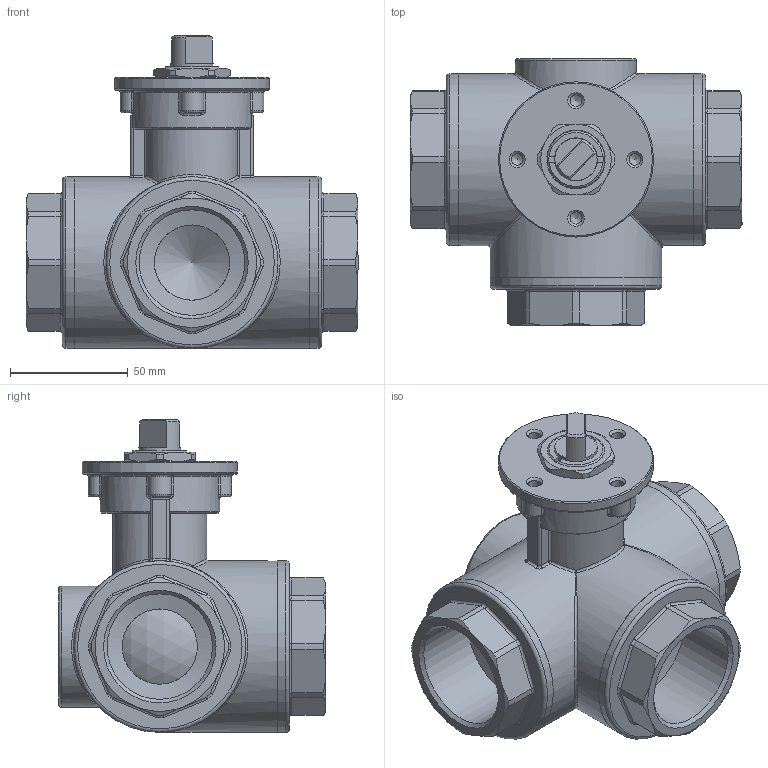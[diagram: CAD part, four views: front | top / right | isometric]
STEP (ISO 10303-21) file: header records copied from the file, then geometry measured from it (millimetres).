
FILE_DESCRIPTION((''),'2;1');
FILE_NAME('C:\Documents and Settings\ut4\Desktop\TICOM 16-07-2012\Art.92 PM SM 112.stp','2012-07-16T14:00:13',('ut4'),(''),'Autodesk Inventor 2013','Autodesk Inventor 2013','');
FILE_SCHEMA(('AUTOMOTIVE_DESIGN { 1 0 10303 214 1 1 1 1 }'));
Length unit declared in the file: millimetre
Products named in the file (13): Art.92 PM SM 112 disc. speciale; Corpo 3vie mot. 112; Manic. 3vie 112; Sfera 3vie for. L 112; Sede 3vie 112 mot; O-ring 37.70 x 3; Perno 3 vie mot. 23 q8; Anello antigrip. perno mot. Ø23; Boccola antigrip. perno mot. Ø23; O-ring 17.86 x 2; Ghiera ferma asta mot. 34-25 PER PMS; Disc. portamot. Ø65 speciale TICOM; Dado blocca piastra SM3
Assembly tree (21 placements, depth 2):
  Art.92 PM SM 112 disc. speciale
    Corpo 3vie mot. 112
    Manic. 3vie 112  x3
    Sfera 3vie for. L 112
    Sede 3vie 112 mot  x4
    O-ring 37.70 x 3  x4
    Perno 3 vie mot. 23 q8
    Anello antigrip. perno mot. Ø23
    Boccola antigrip. perno mot. Ø23
    O-ring 17.86 x 2  x2
    Ghiera ferma asta mot. 34-25 PER PMS
    Disc. portamot. Ø65 speciale TICOM
    Dado blocca piastra SM3
Bounding box: 141.2 x 113.8 x 133.05 mm (x, y, z)
Volume: 492315.6 mm3; surface area: 187164 mm2
Topology: 21 solids, 21 shells, 678 faces, 1585 edges, 978 vertices
Faces by surface type: plane 259, cylinder 186, cone 94, torus 62, bspline 58, sphere 19
Full cylindrical faces by diameter (mm): 4.917 x4, 18 x2, 18.3 x1, 19.3 x2, 20 x1, 20.2 x1, 21 x2, 21.1 x1, 22.9 x3, 23 x3, 23.5 x1, 24.95 x1, 25 x1, 26 x1, 26.2 x1, 32 x10, 32.5 x1, 34 x1, 37 x4, 44.2 x8, 44.85 x3, 49.5 x3, 51.5 x1, 53.8 x3, 63.5 x3, 65 x3, 65.5 x3, 66 x1, 73 x5
Entity records: 16896 total; most frequent: CARTESIAN_POINT 4680, DIRECTION 2327, ORIENTED_EDGE 2304, EDGE_CURVE 1152, AXIS2_PLACEMENT_3D 897, VERTEX_POINT 769, EDGE_LOOP 679, VECTOR 533
